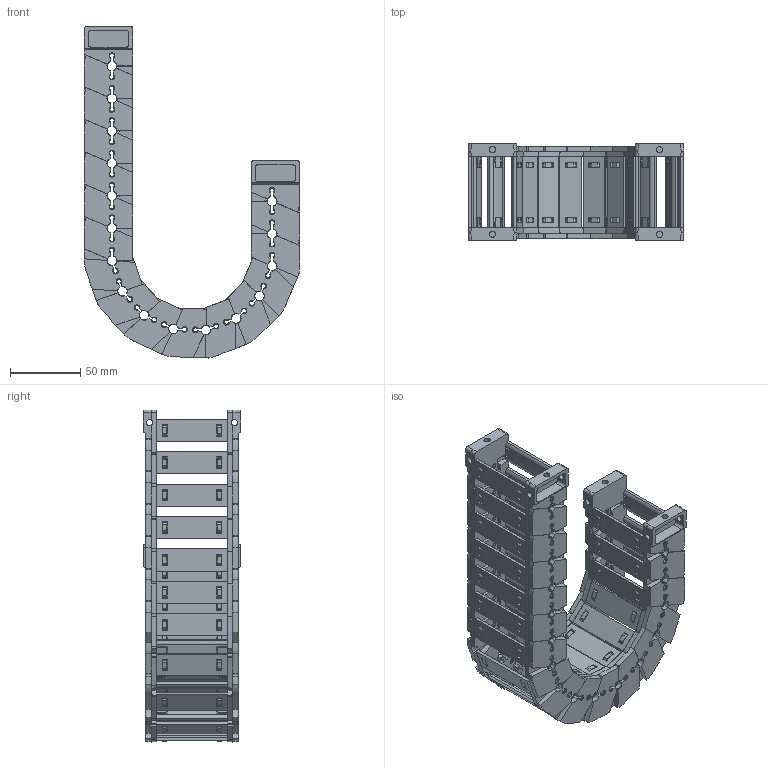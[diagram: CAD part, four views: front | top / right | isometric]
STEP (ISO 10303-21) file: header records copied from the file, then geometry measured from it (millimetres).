
FILE_DESCRIPTION((''),'2;1');
FILE_NAME('JY-28X50-R55_ASM','2026-03-26T08:13:55',('admin'),(''),'CREO PARAMETRIC BY PTC INC, 2021023','CREO PARAMETRIC BY PTC INC, 2021023','');
FILE_SCHEMA(('CONFIG_CONTROL_DESIGN'));
Length unit declared in the file: millimetre
Products named in the file (11): 28XL-L; 25-35XL-YP; 28XL-R; ASM0001_ASM; 28-LTT-A-L; 28-LTT-A-R; 28XL-LTT-A_ASM; 28-LTT-B-L; 28-LTT-B-R; 28XL-LTT-B_ASM; JY-28X50-R55_ASM
Assembly tree (29 placements, depth 3):
  JY-28X50-R55_ASM
    ASM0001_ASM  x15
      28XL-L
      25-35XL-YP
      28XL-R
    28XL-LTT-A_ASM
      28-LTT-A-L
      25-35XL-YP  x2
      28-LTT-A-R
    28XL-LTT-B_ASM
      28-LTT-B-L
      25-35XL-YP  x2
      28-LTT-B-R
Bounding box: 153.11 x 69 x 235.62 mm (x, y, z)
Volume: 258202.2 mm3; surface area: 188778.6 mm2
Topology: 68 solids, 68 shells, 5486 faces, 16300 edges, 10882 vertices
Faces by surface type: plane 3597, cone 973, cylinder 796, bspline 120
Entity records: 29071 total; most frequent: CARTESIAN_POINT 9487, ORIENTED_EDGE 4352, DIRECTION 3649, EDGE_CURVE 2176, VERTEX_POINT 1454, VECTOR 1365, LINE 1365, AXIS2_PLACEMENT_3D 1142
